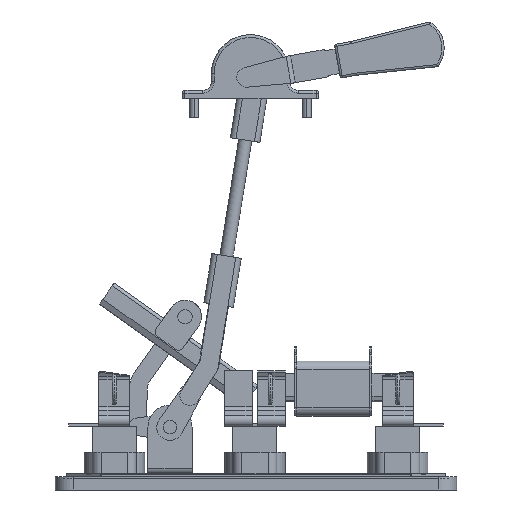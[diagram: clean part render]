
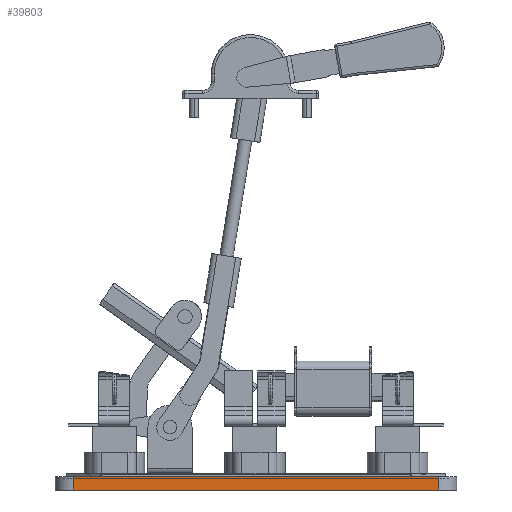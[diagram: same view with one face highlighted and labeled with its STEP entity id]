
A CAD part, left-side view. The second image highlights one B-rep face of the part: STEP entity #39803.
In plain terms, the highlighted planar face has unit normal (-1, 0, 0).
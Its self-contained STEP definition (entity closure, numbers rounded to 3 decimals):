
#3559 = CARTESIAN_POINT ( 'NONE',  ( -132., 104., -15. ) ) ;
#11716 = CARTESIAN_POINT ( 'NONE',  ( -132., 104., -3. ) ) ;
#14377 = LINE ( 'NONE', #60190, #51804 ) ;
#15014 = VERTEX_POINT ( 'NONE', #55578 ) ;
#17487 = DIRECTION ( 'NONE',  ( 0., -1., 0. ) ) ;
#19573 = VECTOR ( 'NONE', #34739, 1000. ) ;
#21999 = ORIENTED_EDGE ( 'NONE', *, *, #59743, .F. ) ;
#24049 = VECTOR ( 'NONE', #56397, 1000. ) ;
#26950 = VERTEX_POINT ( 'NONE', #47898 ) ;
#28226 = LINE ( 'NONE', #11716, #33780 ) ;
#28746 = ORIENTED_EDGE ( 'NONE', *, *, #43827, .T. ) ;
#28894 = ORIENTED_EDGE ( 'NONE', *, *, #59011, .T. ) ;
#33780 = VECTOR ( 'NONE', #51819, 1000. ) ;
#34055 = EDGE_CURVE ( 'NONE', #15014, #54489, #14377, .T. ) ;
#34466 = CARTESIAN_POINT ( 'NONE',  ( -132., -243.8, -3. ) ) ;
#34739 = DIRECTION ( 'NONE',  ( 0., -1., 0. ) ) ;
#35440 = ORIENTED_EDGE ( 'NONE', *, *, #34055, .T. ) ;
#35655 = DIRECTION ( 'NONE',  ( 0., 0., 1. ) ) ;
#37558 = VERTEX_POINT ( 'NONE', #54228 ) ;
#39803 = ADVANCED_FACE ( 'NONE', ( #44355 ), #52715, .T. ) ;
#42759 = LINE ( 'NONE', #3559, #19573 ) ;
#43827 = EDGE_CURVE ( 'NONE', #37558, #26950, #57549, .T. ) ;
#44355 = FACE_OUTER_BOUND ( 'NONE', #54175, .T. ) ;
#46170 = CARTESIAN_POINT ( 'NONE',  ( -132., 87.8, -15. ) ) ;
#47898 = CARTESIAN_POINT ( 'NONE',  ( -132., 87.8, -15. ) ) ;
#51804 = VECTOR ( 'NONE', #35655, 1000. ) ;
#51819 = DIRECTION ( 'NONE',  ( 0., -1., 0. ) ) ;
#52271 = CARTESIAN_POINT ( 'NONE',  ( -132., 104., -15. ) ) ;
#52715 = PLANE ( 'NONE',  #63745 ) ;
#54175 = EDGE_LOOP ( 'NONE', ( #21999, #28746, #28894, #35440 ) ) ;
#54228 = CARTESIAN_POINT ( 'NONE',  ( -132., 87.8, -3. ) ) ;
#54489 = VERTEX_POINT ( 'NONE', #34466 ) ;
#55578 = CARTESIAN_POINT ( 'NONE',  ( -132., -243.8, -15. ) ) ;
#56397 = DIRECTION ( 'NONE',  ( 0., 0., -1. ) ) ;
#57422 = DIRECTION ( 'NONE',  ( -1., 0., 0. ) ) ;
#57549 = LINE ( 'NONE', #46170, #24049 ) ;
#59011 = EDGE_CURVE ( 'NONE', #26950, #15014, #42759, .T. ) ;
#59743 = EDGE_CURVE ( 'NONE', #37558, #54489, #28226, .T. ) ;
#60190 = CARTESIAN_POINT ( 'NONE',  ( -132., -243.8, -15. ) ) ;
#63745 = AXIS2_PLACEMENT_3D ( 'NONE', #52271, #57422, #17487 ) ;
